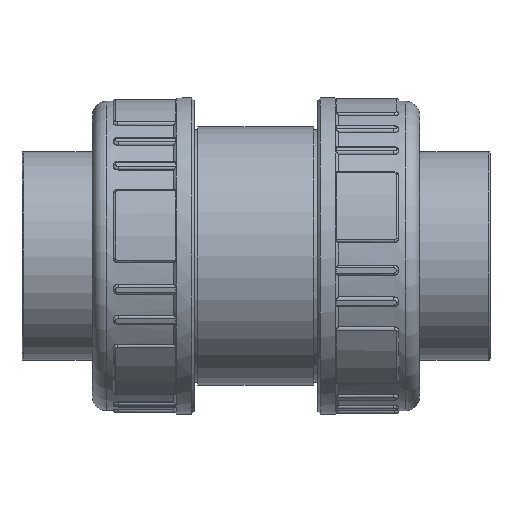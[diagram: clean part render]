
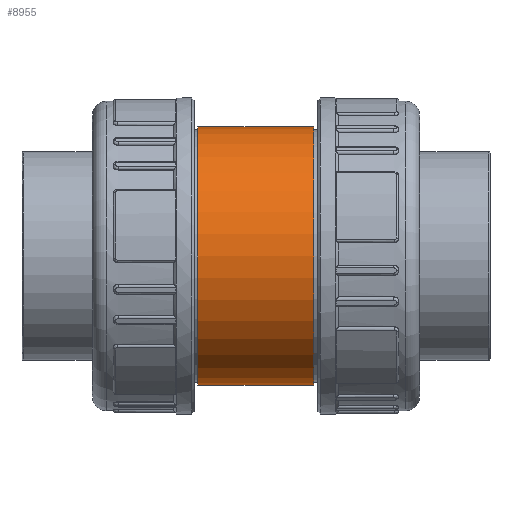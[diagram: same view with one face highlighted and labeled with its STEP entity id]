
A CAD part, left-side view. The second image highlights one B-rep face of the part: STEP entity #8955.
In plain terms, the highlighted cylindrical face has radius 47 mm (diameter 94 mm), a full revolution.
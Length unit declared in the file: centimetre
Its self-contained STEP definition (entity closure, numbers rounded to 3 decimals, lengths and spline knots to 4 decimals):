
#381=B_SPLINE_CURVE_WITH_KNOTS('',3,(#35965,#35966,#35967,#35968,#35969,
#35970,#35971,#35972,#35973,#35974,#35975,#35976,#35977,#35978,#35979,#35980,
#35981,#35982,#35983,#35984,#35985,#35986,#35987,#35988,#35989,#35990,#35991,
#35992,#35993,#35994,#35995,#35996,#35997,#35998,#35999,#36000,#36001,#36002,
#36003,#36004,#36005,#36006,#36007,#36008,#36009,#36010,#36011,#36012,#36013,
#36014,#36015,#36016,#36017,#36018,#36019,#36020,#36021,#36022,#36023,#36024,
#36025,#36026,#36027,#36028,#36029,#36030),.UNSPECIFIED.,.T.,.F.,(4,2,2,
2,2,2,2,2,2,2,2,2,2,2,2,2,2,2,2,2,2,2,2,2,2,2,2,2,2,2,2,2,4),(0.,0.3557,
0.7114,1.0672,1.4229,1.7783,2.1336,
2.489,2.8444,3.1998,3.5551,3.9105,
4.2659,4.6216,4.9773,5.333,5.6888,
6.0445,6.4002,6.7559,7.1116,7.467,
7.8224,8.1778,8.5331,8.8885,9.2439,
9.5993,9.9546,10.3103,10.6661,11.0218,
11.3775),.UNSPECIFIED.);
#1612=CYLINDRICAL_SURFACE('',#9632,4.7);
#1740=FACE_BOUND('',#2581,.T.);
#1741=FACE_BOUND('',#2582,.T.);
#2018=FACE_OUTER_BOUND('',#2580,.T.);
#2580=EDGE_LOOP('',(#6636));
#2581=EDGE_LOOP('',(#6637));
#2582=EDGE_LOOP('',(#6638));
#3106=CIRCLE('',#9629,4.7);
#3107=CIRCLE('',#9631,4.7);
#3717=VERTEX_POINT('',#35958);
#3718=VERTEX_POINT('',#35961);
#3719=VERTEX_POINT('',#35964);
#4754=EDGE_CURVE('',#3717,#3717,#3106,.T.);
#4755=EDGE_CURVE('',#3718,#3718,#3107,.T.);
#4756=EDGE_CURVE('',#3719,#3719,#381,.T.);
#6636=ORIENTED_EDGE('',*,*,#4754,.F.);
#6637=ORIENTED_EDGE('',*,*,#4756,.T.);
#6638=ORIENTED_EDGE('',*,*,#4755,.T.);
#8955=ADVANCED_FACE('',(#2018,#1740,#1741),#1612,.T.);
#9629=AXIS2_PLACEMENT_3D('',#35959,#11091,#11092);
#9631=AXIS2_PLACEMENT_3D('',#35962,#11095,#11096);
#9632=AXIS2_PLACEMENT_3D('',#35963,#11097,#11098);
#11091=DIRECTION('center_axis',(0.,-1.,0.));
#11092=DIRECTION('ref_axis',(1.,0.,0.));
#11095=DIRECTION('center_axis',(0.,-1.,0.));
#11096=DIRECTION('ref_axis',(1.,0.,0.));
#11097=DIRECTION('center_axis',(0.,-1.,0.));
#11098=DIRECTION('ref_axis',(-1.,0.,0.));
#35958=CARTESIAN_POINT('',(-4.7,-2.09,0.));
#35959=CARTESIAN_POINT('Origin',(0.,-2.09,0.));
#35961=CARTESIAN_POINT('',(-4.7,2.12,0.));
#35962=CARTESIAN_POINT('Origin',(0.,2.12,0.));
#35963=CARTESIAN_POINT('Origin',(0.,0.015,
0.));
#35964=CARTESIAN_POINT('',(4.3141,0.,-1.865));
#35965=CARTESIAN_POINT('Ctrl Pts',(4.3141,0.,-1.865));
#35966=CARTESIAN_POINT('Ctrl Pts',(4.3141,-0.1186,
-1.865));
#35967=CARTESIAN_POINT('Ctrl Pts',(4.3192,-0.2407,
-1.8535));
#35968=CARTESIAN_POINT('Ctrl Pts',(4.3394,-0.4828,
-1.8057));
#35969=CARTESIAN_POINT('Ctrl Pts',(4.3546,-0.6027,
-1.7693));
#35970=CARTESIAN_POINT('Ctrl Pts',(4.3922,-0.832,
-1.6738));
#35971=CARTESIAN_POINT('Ctrl Pts',(4.4146,-0.9415,
-1.6145));
#35972=CARTESIAN_POINT('Ctrl Pts',(4.4621,-1.1439,-1.4781));
#35973=CARTESIAN_POINT('Ctrl Pts',(4.4872,-1.2366,-1.4009));
#35974=CARTESIAN_POINT('Ctrl Pts',(4.5352,-1.4008,-1.2367));
#35975=CARTESIAN_POINT('Ctrl Pts',(4.5598,-1.478,-1.144));
#35976=CARTESIAN_POINT('Ctrl Pts',(4.6059,-1.6145,-0.9416));
#35977=CARTESIAN_POINT('Ctrl Pts',(4.6272,-1.6738,-0.832));
#35978=CARTESIAN_POINT('Ctrl Pts',(4.6627,-1.7693,-0.6026));
#35979=CARTESIAN_POINT('Ctrl Pts',(4.6767,-1.8057,-0.4826));
#35980=CARTESIAN_POINT('Ctrl Pts',(4.6954,-1.8535,-0.2406));
#35981=CARTESIAN_POINT('Ctrl Pts',(4.7,-1.865,-0.1185));
#35982=CARTESIAN_POINT('Ctrl Pts',(4.7,-1.865,0.1185));
#35983=CARTESIAN_POINT('Ctrl Pts',(4.6954,-1.8535,0.2406));
#35984=CARTESIAN_POINT('Ctrl Pts',(4.6767,-1.8057,0.4826));
#35985=CARTESIAN_POINT('Ctrl Pts',(4.6627,-1.7693,0.6026));
#35986=CARTESIAN_POINT('Ctrl Pts',(4.6272,-1.6738,0.832));
#35987=CARTESIAN_POINT('Ctrl Pts',(4.6059,-1.6145,0.9416));
#35988=CARTESIAN_POINT('Ctrl Pts',(4.5598,-1.478,1.144));
#35989=CARTESIAN_POINT('Ctrl Pts',(4.5352,-1.4008,1.2367));
#35990=CARTESIAN_POINT('Ctrl Pts',(4.4872,-1.2366,1.4009));
#35991=CARTESIAN_POINT('Ctrl Pts',(4.4621,-1.1439,1.4781));
#35992=CARTESIAN_POINT('Ctrl Pts',(4.4146,-0.9415,
1.6145));
#35993=CARTESIAN_POINT('Ctrl Pts',(4.3922,-0.832,
1.6738));
#35994=CARTESIAN_POINT('Ctrl Pts',(4.3546,-0.6027,
1.7693));
#35995=CARTESIAN_POINT('Ctrl Pts',(4.3394,-0.4828,
1.8057));
#35996=CARTESIAN_POINT('Ctrl Pts',(4.3192,-0.2407,
1.8535));
#35997=CARTESIAN_POINT('Ctrl Pts',(4.3141,-0.1186,
1.865));
#35998=CARTESIAN_POINT('Ctrl Pts',(4.3141,0.1186,1.865));
#35999=CARTESIAN_POINT('Ctrl Pts',(4.3192,0.2407,1.8535));
#36000=CARTESIAN_POINT('Ctrl Pts',(4.3394,0.4828,1.8057));
#36001=CARTESIAN_POINT('Ctrl Pts',(4.3546,0.6027,1.7693));
#36002=CARTESIAN_POINT('Ctrl Pts',(4.3922,0.832,1.6738));
#36003=CARTESIAN_POINT('Ctrl Pts',(4.4146,0.9415,1.6145));
#36004=CARTESIAN_POINT('Ctrl Pts',(4.4621,1.1439,1.4781));
#36005=CARTESIAN_POINT('Ctrl Pts',(4.4872,1.2366,1.4009));
#36006=CARTESIAN_POINT('Ctrl Pts',(4.5352,1.4008,1.2367));
#36007=CARTESIAN_POINT('Ctrl Pts',(4.5598,1.478,1.144));
#36008=CARTESIAN_POINT('Ctrl Pts',(4.6059,1.6145,0.9416));
#36009=CARTESIAN_POINT('Ctrl Pts',(4.6272,1.6738,0.832));
#36010=CARTESIAN_POINT('Ctrl Pts',(4.6627,1.7693,0.6026));
#36011=CARTESIAN_POINT('Ctrl Pts',(4.6767,1.8057,0.4826));
#36012=CARTESIAN_POINT('Ctrl Pts',(4.6954,1.8535,0.2406));
#36013=CARTESIAN_POINT('Ctrl Pts',(4.7,1.865,0.1185));
#36014=CARTESIAN_POINT('Ctrl Pts',(4.7,1.865,-0.1185));
#36015=CARTESIAN_POINT('Ctrl Pts',(4.6954,1.8535,-0.2406));
#36016=CARTESIAN_POINT('Ctrl Pts',(4.6767,1.8057,-0.4826));
#36017=CARTESIAN_POINT('Ctrl Pts',(4.6627,1.7693,-0.6026));
#36018=CARTESIAN_POINT('Ctrl Pts',(4.6272,1.6738,-0.832));
#36019=CARTESIAN_POINT('Ctrl Pts',(4.6059,1.6145,-0.9416));
#36020=CARTESIAN_POINT('Ctrl Pts',(4.5598,1.478,-1.144));
#36021=CARTESIAN_POINT('Ctrl Pts',(4.5352,1.4008,-1.2367));
#36022=CARTESIAN_POINT('Ctrl Pts',(4.4872,1.2366,-1.4009));
#36023=CARTESIAN_POINT('Ctrl Pts',(4.4621,1.1439,-1.4781));
#36024=CARTESIAN_POINT('Ctrl Pts',(4.4146,0.9415,-1.6145));
#36025=CARTESIAN_POINT('Ctrl Pts',(4.3922,0.832,-1.6738));
#36026=CARTESIAN_POINT('Ctrl Pts',(4.3546,0.6027,-1.7693));
#36027=CARTESIAN_POINT('Ctrl Pts',(4.3394,0.4828,-1.8057));
#36028=CARTESIAN_POINT('Ctrl Pts',(4.3192,0.2407,-1.8535));
#36029=CARTESIAN_POINT('Ctrl Pts',(4.3141,0.1186,-1.865));
#36030=CARTESIAN_POINT('Ctrl Pts',(4.3141,0.,
-1.865));
